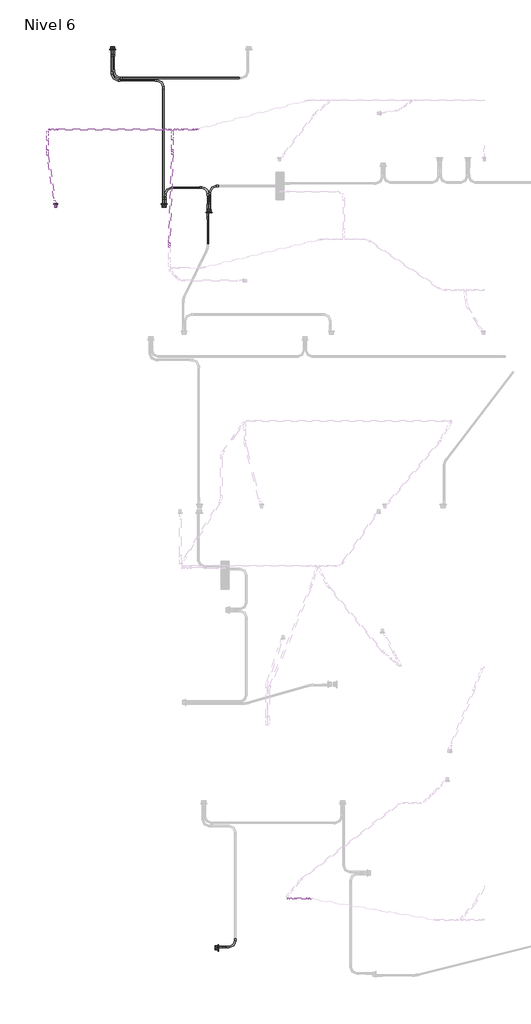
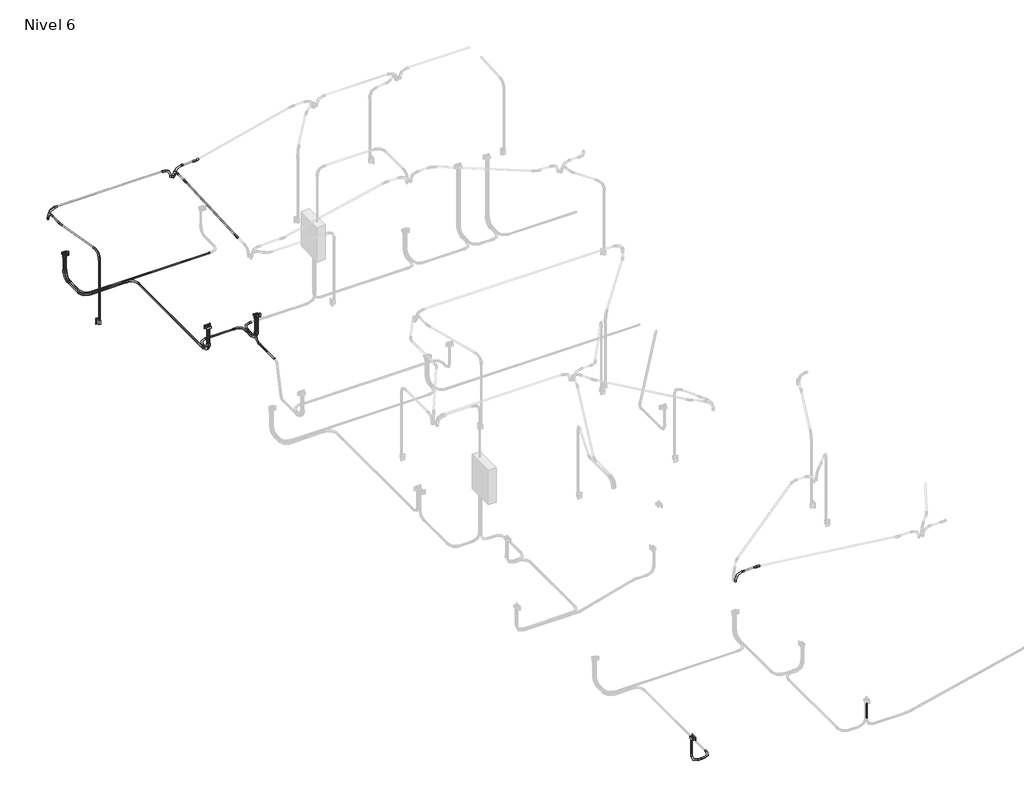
# One storey, part 2 of 9: 28 cable carrier fittings, 27 cable carrier segments, 4 proxies, 1 switching device.
"""IFC4 building model written with IfcOpenShell, lengths in millimetres."""

from ifc_helpers import new_model, si_unit, point, frame, frame_2d, origin, place, context, project, spatial, circle_curve, trimmed, segment, composite_curve, outline, extrude, transform, mapped, element, save
from components import gfci_180f1b41, m_codo_de_tubo_extremo_liso_pvc_9da73e12, m_codo_de_tubo_extremo_liso_pvc_17dd3af1, m_codo_de_tubo_extremo_liso_pvc_22de3964, m_codo_de_tubo_extremo_liso_pvc_102f0f41, m_codo_de_tubo_extremo_liso_pvc_e41270cf, m_codo_de_tubo_extremo_liso_pvc_7cb120de, m_codo_de_tubo_extremo_liso_pvc_0d52a11c, m_codo_de_tubo_extremo_liso_pvc_f661f515, switching_device_22fed34b

model = new_model("IFC4")

# Units and contexts
model_context = context("Model", 3, world=origin())
ifc_project = project(units=[si_unit("LENGTHUNIT", "METRE", prefix="MILLI")], contexts=[model_context])

# Site, building, storey
site = spatial("IfcSite", under=ifc_project)
building = spatial("IfcBuilding", under=site)
storey = spatial("IfcBuildingStorey", under=building, Name="Nivel 6", Elevation=13400.0)

# Proxies
placement = place(None, origin())
gfci_shape = gfci_180f1b41(model_context)
element("IfcBuildingElementProxy", 1, Name="Tomacorriente doble 220V : GFCI", ObjectType="Tomacorriente doble 220V : GFCI", at=placement, inside=storey, context=model_context, shape_type="MappedRepresentation", body=[
    mapped(gfci_shape, transform((-1794.6032307, 17515.0, 13800.0), x_axis=(0.0, 0.0, 1.0), y_axis=(-1.0, 0.0, 0.0), z_axis=(0.0, -1.0, 0.0))),
])
element("IfcBuildingElementProxy", 2, Name="Tomacorriente doble 220V : GFCI", ObjectType="Tomacorriente doble 220V : GFCI", at=placement, inside=storey, context=model_context, shape_type="MappedRepresentation", body=[
    mapped(gfci_shape, transform((-853.3169802, 14690.0, 13800.0), x_axis=(0.0, 0.0, 1.0), y_axis=(1.0, 0.0, 0.0), z_axis=(0.0, 1.0, 0.0))),
])
element("IfcBuildingElementProxy", 3, Name="Tomacorriente doble 220V : GFCI", ObjectType="Tomacorriente doble 220V : GFCI", at=placement, inside=storey, context=model_context, shape_type="MappedRepresentation", body=[
    mapped(gfci_shape, transform((-33.9717684, 14540.0, 13800.0), x_axis=(0.0, 0.0, 1.0), y_axis=(-1.0, 0.0, 0.0), z_axis=(0.0, -1.0, 0.0))),
])
element("IfcBuildingElementProxy", 4, Name="Tomacorriente doble 220V : GFCI", ObjectType="Tomacorriente doble 220V : GFCI", at=placement, inside=storey, context=model_context, shape_type="MappedRepresentation", body=[
    mapped(gfci_shape, transform((135.0, 1099.2397327, 13800.0), x_axis=(0.0, 0.0, 1.0), y_axis=(0.0, -1.0, 0.0), z_axis=(1.0, 0.0, 0.0))),
])

# Cable carrier fittings
m_codo_de_tubo_extremo_liso_pvc_shape = m_codo_de_tubo_extremo_liso_pvc_9da73e12(model_context)
element("IfcCableCarrierFitting", 5, ObjectType="M_Codo de tubo - Extremo liso - PVC : CODO POTENCIA", at=placement, inside=storey, context=model_context, shape_type="MappedRepresentation", body=[
    mapped(m_codo_de_tubo_extremo_liso_pvc_shape, transform((-1776.5714109, 17544.6371118, 13330.0), x_axis=(0.0, 0.0, -1.0), y_axis=(0.0, -1.0, 0.0), z_axis=(-1.0, 0.0, 0.0))),
])
element("IfcCableCarrierFitting", 6, ObjectType="M_Codo de tubo - Extremo liso - PVC : CODO POTENCIA", at=placement, inside=storey, context=model_context, shape_type="MappedRepresentation", body=[
    mapped(m_codo_de_tubo_extremo_liso_pvc_shape, transform((-52.0035882, 14569.6371118, 13330.0), x_axis=(0.0, 0.0, -1.0), y_axis=(0.0, 1.0, 0.0), z_axis=(1.0, 0.0, 0.0))),
])
element("IfcCableCarrierFitting", 7, ObjectType="M_Codo de tubo - Extremo liso - PVC : CODO POTENCIA", at=placement, inside=storey, context=model_context, shape_type="MappedRepresentation", body=[
    mapped(m_codo_de_tubo_extremo_liso_pvc_shape, transform((-52.7017393, 14567.6735337, 13330.0), x_axis=(0.0, 0.0, -1.0), y_axis=(0.0, -1.0, 0.0), z_axis=(-1.0, 0.0, 0.0))),
])
element("IfcCableCarrierFitting", 8, ObjectType="M_Codo de tubo - Extremo liso - PVC : CODO POTENCIA", at=placement, inside=storey, context=model_context, shape_type="MappedRepresentation", body=[
    mapped(m_codo_de_tubo_extremo_liso_pvc_shape, transform((-15.9399486, 15020.5396141, 13330.0), x_axis=(-1.0, 0.0, 0.0), y_axis=(0.0, -1.0, 0.0), z_axis=(0.0, 0.0, 1.0))),
])
element("IfcCableCarrierFitting", 9, ObjectType="M_Codo de tubo - Extremo liso - PVC : CODO POTENCIA", at=placement, inside=storey, context=model_context, shape_type="MappedRepresentation", body=[
    mapped(m_codo_de_tubo_extremo_liso_pvc_shape, transform((-15.9399486, 14569.6371118, 13330.0), x_axis=(0.0, 0.0, -1.0), y_axis=(0.0, 1.0, 0.0), z_axis=(1.0, 0.0, 0.0))),
])
element("IfcCableCarrierFitting", 10, ObjectType="M_Codo de tubo - Extremo liso - PVC : CODO POTENCIA", at=placement, inside=storey, context=model_context, shape_type="MappedRepresentation", body=[
    mapped(m_codo_de_tubo_extremo_liso_pvc_shape, transform((-835.2851604, 14660.3628882, 13330.0), x_axis=(0.0, 0.0, -1.0), y_axis=(0.0, 1.0, 0.0), z_axis=(1.0, 0.0, 0.0))),
])
element("IfcCableCarrierFitting", 11, ObjectType="M_Codo de tubo - Extremo liso - PVC : CODO POTENCIA", at=placement, inside=storey, context=model_context, shape_type="MappedRepresentation", body=[
    mapped(m_codo_de_tubo_extremo_liso_pvc_shape, transform((-1812.6350506, 17544.6371118, 13330.0), x_axis=(0.0, 0.0, -1.0), y_axis=(0.0, -1.0, 0.0), z_axis=(-1.0, 0.0, 0.0))),
])
element("IfcCableCarrierFitting", 12, ObjectType="M_Codo de tubo - Extremo liso - PVC : CODO POTENCIA", at=placement, inside=storey, context=model_context, shape_type="MappedRepresentation", body=[
    mapped(m_codo_de_tubo_extremo_liso_pvc_shape, transform((-1812.6350506, 16952.0348272, 13330.0), x_axis=(0.0, -1.0, 0.0), y_axis=(1.0, 0.0, 0.0), z_axis=(0.0, 0.0, 1.0))),
])
element("IfcCableCarrierFitting", 13, ObjectType="M_Codo de tubo - Extremo liso - PVC : CODO POTENCIA", at=placement, inside=storey, context=model_context, shape_type="MappedRepresentation", body=[
    mapped(m_codo_de_tubo_extremo_liso_pvc_shape, transform((-871.3488, 16952.0348272, 13330.0), x_axis=(0.0, 1.0, 0.0), y_axis=(-1.0, 0.0, 0.0), z_axis=(0.0, 0.0, 1.0))),
])
element("IfcCableCarrierFitting", 14, ObjectType="M_Codo de tubo - Extremo liso - PVC : CODO POTENCIA", at=placement, inside=storey, context=model_context, shape_type="MappedRepresentation", body=[
    mapped(m_codo_de_tubo_extremo_liso_pvc_shape, transform((-871.3488, 14660.3628882, 13330.0), x_axis=(0.0, 0.0, -1.0), y_axis=(0.0, 1.0, 0.0), z_axis=(1.0, 0.0, 0.0))),
])
element("IfcCableCarrierFitting", 15, ObjectType="M_Codo de tubo - Extremo liso - PVC : CODO POTENCIA", at=placement, inside=storey, context=model_context, shape_type="MappedRepresentation", body=[
    mapped(m_codo_de_tubo_extremo_liso_pvc_shape, transform((-1776.5714109, 16994.6371118, 13330.0), x_axis=(0.0, -1.0, 0.0), y_axis=(1.0, 0.0, 0.0), z_axis=(0.0, 0.0, 1.0))),
])
element("IfcCableCarrierFitting", 16, ObjectType="M_Codo de tubo - Extremo liso - PVC : CODO POTENCIA", at=placement, inside=storey, context=model_context, shape_type="MappedRepresentation", body=[
    mapped(m_codo_de_tubo_extremo_liso_pvc_shape, transform((105.3628882, 1117.2715525, 13330.0), x_axis=(0.0, 0.0, -1.0), y_axis=(1.0, 0.0, 0.0), z_axis=(0.0, -1.0, 0.0))),
])
element("IfcCableCarrierFitting", 17, ObjectType="M_Codo de tubo - Extremo liso - PVC : CODO POTENCIA", at=placement, inside=storey, context=model_context, shape_type="MappedRepresentation", body=[
    mapped(m_codo_de_tubo_extremo_liso_pvc_shape, transform((445.3628882, 1117.2715525, 13330.0), x_axis=(1.0, 0.0, 0.0), y_axis=(0.0, 1.0, 0.0), z_axis=(0.0, 0.0, 1.0))),
])
m_codo_de_tubo_extremo_liso_pvc_2_shape = m_codo_de_tubo_extremo_liso_pvc_17dd3af1(model_context)
element("IfcCableCarrierFitting", 18, ObjectType="M_Codo de tubo - Extremo liso - PVC : CODO POTENCIA", at=placement, inside=storey, context=model_context, shape_type="MappedRepresentation", body=[
    mapped(m_codo_de_tubo_extremo_liso_pvc_2_shape, transform((-52.0035882, 14992.0695832, 13330.0), x_axis=(0.0, 1.0, 0.0), y_axis=(-1.0, 0.0, 0.0), z_axis=(0.0, 0.0, 1.0))),
])
m_codo_de_tubo_extremo_liso_pvc_3_shape = m_codo_de_tubo_extremo_liso_pvc_22de3964(model_context)
element("IfcCableCarrierFitting", 19, ObjectType="M_Codo de tubo - Extremo liso - PVC : CODO POTENCIA", at=placement, inside=storey, context=model_context, shape_type="MappedRepresentation", body=[
    mapped(m_codo_de_tubo_extremo_liso_pvc_3_shape, transform((-835.2851604, 14988.4801624, 13330.0), x_axis=(-0.9999895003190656, -0.004582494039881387, 0.0), y_axis=(0.004582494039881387, -0.9999895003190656, 0.0), z_axis=(0.0, 0.0, 1.0))),
])
element("IfcCableCarrierFitting", 20, ObjectType="M_Codo de tubo - Extremo liso - PVC : CODO ILUMINACION", at=placement, inside=storey, context=model_context, shape_type="MappedRepresentation", body=[
    mapped(m_codo_de_tubo_extremo_liso_pvc_shape, transform((-661.5653638, 16052.1888938, 15950.0), x_axis=(-1.0, 0.0, 0.0), y_axis=(0.0, 0.0, -1.0), z_axis=(0.0, -1.0, 0.0))),
])
element("IfcCableCarrierFitting", 21, ObjectType="M_Codo de tubo - Extremo liso - PVC : CODO ILUMINACION", at=placement, inside=storey, context=model_context, shape_type="MappedRepresentation", body=[
    mapped(m_codo_de_tubo_extremo_liso_pvc_shape, transform((-2951.1219844, 16052.1888938, 15950.0), x_axis=(-1.0, 0.0, 0.0), y_axis=(0.0, 0.0, -1.0), z_axis=(0.0, -1.0, 0.0))),
])
element("IfcCableCarrierFitting", 22, ObjectType="M_Codo de tubo - Extremo liso - PVC : CODO ILUMINACION", at=placement, inside=storey, context=model_context, shape_type="MappedRepresentation", body=[
    mapped(m_codo_de_tubo_extremo_liso_pvc_shape, transform((1413.7987662, 1999.8975507, 15950.0), x_axis=(-1.0, 0.0, 0.0), y_axis=(0.0, 0.0, -1.0), z_axis=(0.0, -1.0, 0.0))),
])
element("IfcCableCarrierFitting", 23, ObjectType="M_Codo de tubo - Extremo liso - PVC : CODO ILUMINACION", at=placement, inside=storey, context=model_context, shape_type="MappedRepresentation", body=[
    mapped(m_codo_de_tubo_extremo_liso_pvc_shape, transform((-2839.7372295, 14646.8611243, 15950.0), x_axis=(0.0, 0.0, 1.0), y_axis=(-0.15963019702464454, 0.987176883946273, 0.0), z_axis=(-0.987176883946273, -0.15963019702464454, 0.0))),
])
element("IfcCableCarrierFitting", 24, ObjectType="M_Codo de tubo - Extremo liso - PVC : CODO ILUMINACION", at=placement, inside=storey, context=model_context, shape_type="MappedRepresentation", body=[
    mapped(m_codo_de_tubo_extremo_liso_pvc_shape, transform((-703.6011392, 16021.9686748, 15950.0), x_axis=(0.0, 1.0, 0.0), y_axis=(0.0, 0.0, -1.0), z_axis=(-1.0, 0.0, 0.0))),
])
m_codo_de_tubo_extremo_liso_pvc_4_shape = m_codo_de_tubo_extremo_liso_pvc_102f0f41(model_context)
element("IfcCableCarrierFitting", 25, ObjectType="M_Codo de tubo - Extremo liso - PVC : CODO ILUMINACION", at=placement, inside=storey, context=model_context, shape_type="MappedRepresentation", body=[
    mapped(m_codo_de_tubo_extremo_liso_pvc_4_shape, transform((-733.8213583, 16052.1888938, 15950.0), x_axis=(1.0, 0.0, 0.0), y_axis=(0.0, 0.0, 1.0), z_axis=(0.0, -1.0, 0.0))),
])
element("IfcCableCarrierFitting", 26, ObjectType="M_Codo de tubo - Extremo liso - PVC : CODO ILUMINACION", at=placement, inside=storey, context=model_context, shape_type="MappedRepresentation", body=[
    mapped(m_codo_de_tubo_extremo_liso_pvc_4_shape, transform((-2986.7540127, 16011.2529502, 15950.0), x_axis=(0.016294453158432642, 0.9998672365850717, 0.0), y_axis=(0.0, 0.0, 1.0), z_axis=(0.9998672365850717, -0.016294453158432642, 0.0))),
])
element("IfcCableCarrierFitting", 27, ObjectType="M_Codo de tubo - Extremo liso - PVC : CODO ILUMINACION", at=placement, inside=storey, context=model_context, shape_type="MappedRepresentation", body=[
    mapped(m_codo_de_tubo_extremo_liso_pvc_4_shape, transform((-2986.7540127, 16011.2529502, 15950.0), x_axis=(0.016294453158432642, 0.9998672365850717, 0.0), y_axis=(0.0, 0.0, 1.0), z_axis=(0.9998672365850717, -0.016294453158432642, 0.0))),
])
m_codo_de_tubo_extremo_liso_pvc_5_shape = m_codo_de_tubo_extremo_liso_pvc_e41270cf(model_context)
element("IfcCableCarrierFitting", 28, ObjectType="M_Codo de tubo - Extremo liso - PVC : CODO ILUMINACION", at=placement, inside=storey, context=model_context, shape_type="MappedRepresentation", body=[
    mapped(m_codo_de_tubo_extremo_liso_pvc_5_shape, transform((-275.4472468, 16052.1888938, 15950.0), x_axis=(1.0, 0.0, 0.0), y_axis=(0.0, 1.0, 0.0), z_axis=(0.0, 0.0, 1.0))),
])
m_codo_de_tubo_extremo_liso_pvc_6_shape = m_codo_de_tubo_extremo_liso_pvc_7cb120de(model_context)
element("IfcCableCarrierFitting", 29, ObjectType="M_Codo de tubo - Extremo liso - PVC : CODO ILUMINACION", at=placement, inside=storey, context=model_context, shape_type="MappedRepresentation", body=[
    mapped(m_codo_de_tubo_extremo_liso_pvc_6_shape, transform((-2992.9621994, 15630.3035331, 15950.0), x_axis=(-0.016294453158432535, -0.9998672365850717, 0.0), y_axis=(0.9998672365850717, -0.016294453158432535, 0.0), z_axis=(0.0, 0.0, 1.0))),
])
m_codo_de_tubo_extremo_liso_pvc_7_shape = m_codo_de_tubo_extremo_liso_pvc_0d52a11c(model_context)
element("IfcCableCarrierFitting", 30, ObjectType="M_Codo de tubo - Extremo liso - PVC : CODO ILUMINACION", at=placement, inside=storey, context=model_context, shape_type="MappedRepresentation", body=[
    mapped(m_codo_de_tubo_extremo_liso_pvc_7_shape, transform((-703.6011392, 15640.9686748, 15950.0), x_axis=(0.03334485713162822, 0.9994439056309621, 0.0), y_axis=(-0.9994439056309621, 0.03334485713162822, 0.0), z_axis=(0.0, 0.0, 1.0))),
])
element("IfcCableCarrierFitting", 31, ObjectType="M_Codo de tubo - Extremo liso - PVC : CODO ILUMINACION", at=placement, inside=storey, context=model_context, shape_type="MappedRepresentation", body=[
    mapped(m_codo_de_tubo_extremo_liso_pvc_7_shape, transform((-760.3529908, 13939.9479758, 15950.0), x_axis=(-0.03334485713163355, -0.9994439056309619, 0.0), y_axis=(0.9994439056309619, -0.03334485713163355, 0.0), z_axis=(0.0, 0.0, 1.0))),
])
m_codo_de_tubo_extremo_liso_pvc_8_shape = m_codo_de_tubo_extremo_liso_pvc_f661f515(model_context)
element("IfcCableCarrierFitting", 32, ObjectType="M_Codo de tubo - Extremo liso - PVC : CODO ILUMINACION", at=placement, inside=storey, context=model_context, shape_type="MappedRepresentation", body=[
    mapped(m_codo_de_tubo_extremo_liso_pvc_8_shape, transform((1798.9934656, 1999.8975507, 15950.0), x_axis=(-0.9860609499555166, 0.16638450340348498, 0.0), y_axis=(-0.16638450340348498, -0.9860609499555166, 0.0), z_axis=(0.0, 0.0, 1.0))),
])

# Cable carrier segments
element("IfcCableCarrierSegment", 33, ObjectType="PVC-SEL, POTENCIA", at=placement, inside=storey, context=model_context, shape_type="SweptSolid", body=[
    extrude(outline(composite_curve([segment(trimmed(circle_curve(frame_2d((13330.0, -1776.5714109)), 11.71), [point((13330.0, -1788.2814109))], [point((13318.29, -1776.5714109))], False, "CARTESIAN"), True, "CONTINUOUS"), segment(trimmed(circle_curve(frame_2d((13330.0, -1776.5714109)), 11.71), [point((13318.29, -1776.5714109))], [point((13330.0, -1764.8614109))], False, "CARTESIAN"), True, "CONTINUOUS"), segment(trimmed(circle_curve(frame_2d((13330.0, -1776.5714109)), 11.71), [point((13330.0, -1764.8614109))], [point((13341.71, -1776.5714109))], False, "CARTESIAN"), True, "CONTINUOUS"), segment(trimmed(circle_curve(frame_2d((13330.0, -1776.5714109)), 11.71), [point((13341.71, -1776.5714109))], [point((13330.0, -1788.2814109))], False, "CARTESIAN"), True, "CONTINUOUS")], self_intersect=False)), frame((0.0, 17147.0371118, 0.0), z_axis=(0.0, 1.0, 0.0), x_axis=(0.0, 0.0, 1.0)), (0.0, 0.0, 1.0), 245.2),
])
element("IfcCableCarrierSegment", 34, ObjectType="PVC-SEL, POTENCIA", at=placement, inside=storey, context=model_context, shape_type="SweptSolid", body=[
    extrude(outline(composite_curve([segment(trimmed(circle_curve(frame_2d((-1776.5714109, 17544.6371118)), 11.71), [point((-1764.8614109, 17544.6371118))], [point((-1776.5714109, 17532.9271118))], False, "CARTESIAN"), True, "CONTINUOUS"), segment(trimmed(circle_curve(frame_2d((-1776.5714109, 17544.6371118)), 11.71), [point((-1776.5714109, 17532.9271118))], [point((-1788.2814109, 17544.6371118))], False, "CARTESIAN"), True, "CONTINUOUS"), segment(trimmed(circle_curve(frame_2d((-1776.5714109, 17544.6371118)), 11.71), [point((-1788.2814109, 17544.6371118))], [point((-1776.5714109, 17556.3471118))], False, "CARTESIAN"), True, "CONTINUOUS"), segment(trimmed(circle_curve(frame_2d((-1776.5714109, 17544.6371118)), 11.71), [point((-1776.5714109, 17556.3471118))], [point((-1764.8614109, 17544.6371118))], False, "CARTESIAN"), True, "CONTINUOUS")], self_intersect=False)), frame((0.0, 0.0, 13482.4), z_axis=(0.0, 0.0, 1.0), x_axis=(1.0, 0.0, 0.0)), (0.0, 0.0, 1.0), 297.3020537),
])
element("IfcCableCarrierSegment", 35, ObjectType="PVC-SEL, POTENCIA", at=placement, inside=storey, context=model_context, shape_type="SweptSolid", body=[
    extrude(outline(composite_curve([segment(trimmed(circle_curve(frame_2d((13330.0, -15.9399486)), 11.71), [point((13330.0, -27.6499486))], [point((13318.29, -15.9399486))], False, "CARTESIAN"), True, "CONTINUOUS"), segment(trimmed(circle_curve(frame_2d((13330.0, -15.9399486)), 11.71), [point((13318.29, -15.9399486))], [point((13330.0, -4.2299486))], False, "CARTESIAN"), True, "CONTINUOUS"), segment(trimmed(circle_curve(frame_2d((13330.0, -15.9399486)), 11.71), [point((13330.0, -4.2299486))], [point((13341.71, -15.9399486))], False, "CARTESIAN"), True, "CONTINUOUS"), segment(trimmed(circle_curve(frame_2d((13330.0, -15.9399486)), 11.71), [point((13341.71, -15.9399486))], [point((13330.0, -27.6499486))], False, "CARTESIAN"), True, "CONTINUOUS")], self_intersect=False)), frame((0.0, 14722.0371118, 0.0), z_axis=(0.0, 1.0, 0.0), x_axis=(0.0, 0.0, 1.0)), (0.0, 0.0, 1.0), 146.1025023),
])
element("IfcCableCarrierSegment", 36, ObjectType="PVC-SEL, POTENCIA", at=placement, inside=storey, context=model_context, shape_type="SweptSolid", body=[
    extrude(outline(composite_curve([segment(trimmed(circle_curve(frame_2d((-15.9399486, 14569.6371118)), 11.71), [point((-4.2299486, 14569.6371118))], [point((-15.9399486, 14557.9271118))], False, "CARTESIAN"), True, "CONTINUOUS"), segment(trimmed(circle_curve(frame_2d((-15.9399486, 14569.6371118)), 11.71), [point((-15.9399486, 14557.9271118))], [point((-27.6499486, 14569.6371118))], False, "CARTESIAN"), True, "CONTINUOUS"), segment(trimmed(circle_curve(frame_2d((-15.9399486, 14569.6371118)), 11.71), [point((-27.6499486, 14569.6371118))], [point((-15.9399486, 14581.3471118))], False, "CARTESIAN"), True, "CONTINUOUS"), segment(trimmed(circle_curve(frame_2d((-15.9399486, 14569.6371118)), 11.71), [point((-15.9399486, 14581.3471118))], [point((-4.2299486, 14569.6371118))], False, "CARTESIAN"), True, "CONTINUOUS")], self_intersect=False)), frame((0.0, 0.0, 13482.4), z_axis=(0.0, 0.0, 1.0), x_axis=(1.0, 0.0, 0.0)), (0.0, 0.0, 1.0), 297.3020537),
])
element("IfcCableCarrierSegment", 37, ObjectType="PVC-SEL, POTENCIA", at=placement, inside=storey, context=model_context, shape_type="SweptSolid", body=[
    extrude(outline(composite_curve([segment(trimmed(circle_curve(frame_2d((13330.0, -52.0035882)), 11.71), [point((13330.0, -40.2935882))], [point((13341.71, -52.0035882))], False, "CARTESIAN"), True, "CONTINUOUS"), segment(trimmed(circle_curve(frame_2d((13330.0, -52.0035882)), 11.71), [point((13341.71, -52.0035882))], [point((13330.0, -63.7135882))], False, "CARTESIAN"), True, "CONTINUOUS"), segment(trimmed(circle_curve(frame_2d((13330.0, -52.0035882)), 11.71), [point((13330.0, -63.7135882))], [point((13318.29, -52.0035882))], False, "CARTESIAN"), True, "CONTINUOUS"), segment(trimmed(circle_curve(frame_2d((13330.0, -52.0035882)), 11.71), [point((13318.29, -52.0035882))], [point((13330.0, -40.2935882))], False, "CARTESIAN"), True, "CONTINUOUS")], self_intersect=False)), frame((0.0, 14722.0371118, 0.0), z_axis=(0.0, 1.0, 0.0), x_axis=(0.0, 0.0, 1.0)), (0.0, 0.0, 1.0), 117.1074867),
])
element("IfcCableCarrierSegment", 38, ObjectType="PVC-SEL, POTENCIA", at=placement, inside=storey, context=model_context, shape_type="SweptSolid", body=[
    extrude(outline(composite_curve([segment(trimmed(circle_curve(frame_2d((-52.0035882, 14569.6371118)), 11.71), [point((-40.2935882, 14569.6371118))], [point((-52.0035882, 14557.9271118))], False, "CARTESIAN"), True, "CONTINUOUS"), segment(trimmed(circle_curve(frame_2d((-52.0035882, 14569.6371118)), 11.71), [point((-52.0035882, 14557.9271118))], [point((-63.7135882, 14569.6371118))], False, "CARTESIAN"), True, "CONTINUOUS"), segment(trimmed(circle_curve(frame_2d((-52.0035882, 14569.6371118)), 11.71), [point((-63.7135882, 14569.6371118))], [point((-52.0035882, 14581.3471118))], False, "CARTESIAN"), True, "CONTINUOUS"), segment(trimmed(circle_curve(frame_2d((-52.0035882, 14569.6371118)), 11.71), [point((-52.0035882, 14581.3471118))], [point((-40.2935882, 14569.6371118))], False, "CARTESIAN"), True, "CONTINUOUS")], self_intersect=False)), frame((0.0, 0.0, 13482.4), z_axis=(0.0, 0.0, 1.0), x_axis=(1.0, 0.0, 0.0)), (0.0, 0.0, 1.0), 297.3020537),
])
element("IfcCableCarrierSegment", 39, ObjectType="PVC-SEL, POTENCIA", at=placement, inside=storey, context=model_context, shape_type="SweptSolid", body=[
    extrude(outline(composite_curve([segment(trimmed(circle_curve(frame_2d((13330.0, -835.2851604)), 11.71), [point((13330.0, -846.9951604))], [point((13318.29, -835.2851604))], False, "CARTESIAN"), True, "CONTINUOUS"), segment(trimmed(circle_curve(frame_2d((13330.0, -835.2851604)), 11.71), [point((13318.29, -835.2851604))], [point((13330.0, -823.5751604))], False, "CARTESIAN"), True, "CONTINUOUS"), segment(trimmed(circle_curve(frame_2d((13330.0, -835.2851604)), 11.71), [point((13330.0, -823.5751604))], [point((13341.71, -835.2851604))], False, "CARTESIAN"), True, "CONTINUOUS"), segment(trimmed(circle_curve(frame_2d((13330.0, -835.2851604)), 11.71), [point((13341.71, -835.2851604))], [point((13330.0, -846.9951604))], False, "CARTESIAN"), True, "CONTINUOUS")], self_intersect=False)), frame((0.0, 14812.7628882, 0.0), z_axis=(0.0, 1.0, 0.0), x_axis=(0.0, 0.0, 1.0)), (0.0, 0.0, 1.0), 23.8398586),
])
element("IfcCableCarrierSegment", 40, ObjectType="PVC-SEL, POTENCIA", at=placement, inside=storey, context=model_context, shape_type="SweptSolid", body=[
    extrude(outline(composite_curve([segment(trimmed(circle_curve(frame_2d((-835.2851604, 14660.3628882)), 11.71), [point((-823.5751604, 14660.3628882))], [point((-835.2851604, 14648.6528882))], False, "CARTESIAN"), True, "CONTINUOUS"), segment(trimmed(circle_curve(frame_2d((-835.2851604, 14660.3628882)), 11.71), [point((-835.2851604, 14648.6528882))], [point((-846.9951604, 14660.3628882))], False, "CARTESIAN"), True, "CONTINUOUS"), segment(trimmed(circle_curve(frame_2d((-835.2851604, 14660.3628882)), 11.71), [point((-846.9951604, 14660.3628882))], [point((-835.2851604, 14672.0728882))], False, "CARTESIAN"), True, "CONTINUOUS"), segment(trimmed(circle_curve(frame_2d((-835.2851604, 14660.3628882)), 11.71), [point((-835.2851604, 14672.0728882))], [point((-823.5751604, 14660.3628882))], False, "CARTESIAN"), True, "CONTINUOUS")], self_intersect=False)), frame((0.0, 0.0, 13482.4), z_axis=(0.0, 0.0, 1.0), x_axis=(1.0, 0.0, 0.0)), (0.0, 0.0, 1.0), 297.3020537),
])
element("IfcCableCarrierSegment", 41, ObjectType="PVC-SEL, POTENCIA", at=placement, inside=storey, context=model_context, shape_type="SweptSolid", body=[
    extrude(outline(composite_curve([segment(trimmed(circle_curve(frame_2d((13330.0, -871.3488)), 11.71), [point((13330.0, -883.0588))], [point((13318.29, -871.3488))], False, "CARTESIAN"), True, "CONTINUOUS"), segment(trimmed(circle_curve(frame_2d((13330.0, -871.3488)), 11.71), [point((13318.29, -871.3488))], [point((13330.0, -859.6388))], False, "CARTESIAN"), True, "CONTINUOUS"), segment(trimmed(circle_curve(frame_2d((13330.0, -871.3488)), 11.71), [point((13330.0, -859.6388))], [point((13341.71, -871.3488))], False, "CARTESIAN"), True, "CONTINUOUS"), segment(trimmed(circle_curve(frame_2d((13330.0, -871.3488)), 11.71), [point((13341.71, -871.3488))], [point((13330.0, -883.0588))], False, "CARTESIAN"), True, "CONTINUOUS")], self_intersect=False)), frame((0.0, 14812.7628882, 0.0), z_axis=(0.0, 1.0, 0.0), x_axis=(0.0, 0.0, 1.0)), (0.0, 0.0, 1.0), 1986.871939),
])
element("IfcCableCarrierSegment", 42, ObjectType="PVC-SEL, POTENCIA", at=placement, inside=storey, context=model_context, shape_type="SweptSolid", body=[
    extrude(outline(composite_curve([segment(trimmed(circle_curve(frame_2d((-871.3488, 14660.3628882)), 11.71), [point((-859.6388, 14660.3628882))], [point((-871.3488, 14648.6528882))], False, "CARTESIAN"), True, "CONTINUOUS"), segment(trimmed(circle_curve(frame_2d((-871.3488, 14660.3628882)), 11.71), [point((-871.3488, 14648.6528882))], [point((-883.0588, 14660.3628882))], False, "CARTESIAN"), True, "CONTINUOUS"), segment(trimmed(circle_curve(frame_2d((-871.3488, 14660.3628882)), 11.71), [point((-883.0588, 14660.3628882))], [point((-871.3488, 14672.0728882))], False, "CARTESIAN"), True, "CONTINUOUS"), segment(trimmed(circle_curve(frame_2d((-871.3488, 14660.3628882)), 11.71), [point((-871.3488, 14672.0728882))], [point((-859.6388, 14660.3628882))], False, "CARTESIAN"), True, "CONTINUOUS")], self_intersect=False)), frame((0.0, 0.0, 13482.4), z_axis=(0.0, 0.0, 1.0), x_axis=(1.0, 0.0, 0.0)), (0.0, 0.0, 1.0), 297.3020537),
])
element("IfcCableCarrierSegment", 43, ObjectType="PVC-SEL, POTENCIA", at=placement, inside=storey, context=model_context, shape_type="SweptSolid", body=[
    extrude(outline(composite_curve([segment(trimmed(circle_curve(frame_2d((13330.0, -52.7017393)), 11.71), [point((13330.0, -64.4117393))], [point((13318.29, -52.7017393))], False, "CARTESIAN"), True, "CONTINUOUS"), segment(trimmed(circle_curve(frame_2d((13330.0, -52.7017393)), 11.71), [point((13318.29, -52.7017393))], [point((13330.0, -40.9917393))], False, "CARTESIAN"), True, "CONTINUOUS"), segment(trimmed(circle_curve(frame_2d((13330.0, -52.7017393)), 11.71), [point((13330.0, -40.9917393))], [point((13341.71, -52.7017393))], False, "CARTESIAN"), True, "CONTINUOUS"), segment(trimmed(circle_curve(frame_2d((13330.0, -52.7017393)), 11.71), [point((13341.71, -52.7017393))], [point((13330.0, -64.4117393))], False, "CARTESIAN"), True, "CONTINUOUS")], self_intersect=False)), frame((0.0, 13959.5803753, 0.0), z_axis=(0.0, 1.0, 0.0), x_axis=(0.0, 0.0, 1.0)), (0.0, 0.0, 1.0), 455.6931583),
])
element("IfcCableCarrierSegment", 44, ObjectType="PVC-SEL, POTENCIA", at=placement, inside=storey, context=model_context, shape_type="SweptSolid", body=[
    extrude(outline(composite_curve([segment(trimmed(circle_curve(frame_2d((0.0, -11.71)), 11.71), [point((-11.7100001, -11.71))], [point((0.0, 0.0))], False, "CARTESIAN"), True, "CONTINUOUS"), segment(trimmed(circle_curve(frame_2d((0.0, -11.71)), 11.71), [point((0.0, 0.0))], [point((11.71, -11.71))], False, "CARTESIAN"), True, "CONTINUOUS"), segment(trimmed(circle_curve(frame_2d((0.0, -11.71)), 11.71), [point((11.71, -11.71))], [point((0.0, -23.42))], False, "CARTESIAN"), True, "CONTINUOUS"), segment(trimmed(circle_curve(frame_2d((0.0, -11.71)), 11.71), [point((0.0, -23.42))], [point((-11.7100001, -11.71))], False, "CARTESIAN"), True, "CONTINUOUS")], self_intersect=False)), frame((-683.4093395, 14989.1761397, 13318.29), z_axis=(0.9999895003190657, 0.004582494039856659, 0.0), x_axis=(0.004582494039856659, -0.9999895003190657, 3.9506176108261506e-12)), (0.0, 0.0, 1.0), 478.4873962),
])
element("IfcCableCarrierSegment", 45, ObjectType="PVC-SEL, POTENCIA", at=placement, inside=storey, context=model_context, shape_type="SweptSolid", body=[
    extrude(outline(composite_curve([segment(trimmed(circle_curve(frame_2d((-1812.6350506, 17544.6371118)), 11.71), [point((-1800.9250506, 17544.6371118))], [point((-1812.6350506, 17532.9271118))], False, "CARTESIAN"), True, "CONTINUOUS"), segment(trimmed(circle_curve(frame_2d((-1812.6350506, 17544.6371118)), 11.71), [point((-1812.6350506, 17532.9271118))], [point((-1824.3450506, 17544.6371118))], False, "CARTESIAN"), True, "CONTINUOUS"), segment(trimmed(circle_curve(frame_2d((-1812.6350506, 17544.6371118)), 11.71), [point((-1824.3450506, 17544.6371118))], [point((-1812.6350506, 17556.3471118))], False, "CARTESIAN"), True, "CONTINUOUS"), segment(trimmed(circle_curve(frame_2d((-1812.6350506, 17544.6371118)), 11.71), [point((-1812.6350506, 17556.3471118))], [point((-1800.9250506, 17544.6371118))], False, "CARTESIAN"), True, "CONTINUOUS")], self_intersect=False)), frame((0.0, 0.0, 13482.4), z_axis=(0.0, 0.0, 1.0), x_axis=(1.0, 0.0, 0.0)), (0.0, 0.0, 1.0), 297.3020537),
])
element("IfcCableCarrierSegment", 46, ObjectType="PVC-SEL, POTENCIA", at=placement, inside=storey, context=model_context, shape_type="SweptSolid", body=[
    extrude(outline(composite_curve([segment(trimmed(circle_curve(frame_2d((16994.6371118, 13330.0)), 11.71), [point((16982.9271118, 13330.0))], [point((16994.6371118, 13341.71))], False, "CARTESIAN"), True, "CONTINUOUS"), segment(trimmed(circle_curve(frame_2d((16994.6371118, 13330.0)), 11.71), [point((16994.6371118, 13341.71))], [point((17006.3471118, 13330.0))], False, "CARTESIAN"), True, "CONTINUOUS"), segment(trimmed(circle_curve(frame_2d((16994.6371118, 13330.0)), 11.71), [point((17006.3471118, 13330.0))], [point((16994.6371118, 13318.29))], False, "CARTESIAN"), True, "CONTINUOUS"), segment(trimmed(circle_curve(frame_2d((16994.6371118, 13330.0)), 11.71), [point((16994.6371118, 13318.29))], [point((16982.9271118, 13330.0))], False, "CARTESIAN"), True, "CONTINUOUS")], self_intersect=False)), frame((-1624.1714109, 0.0, 0.0), z_axis=(1.0, 0.0, 0.0), x_axis=(0.0, 1.0, 0.0)), (0.0, 0.0, 1.0), 2146.7061785),
])
element("IfcCableCarrierSegment", 47, ObjectType="PVC-SEL, POTENCIA", at=placement, inside=storey, context=model_context, shape_type="SweptSolid", body=[
    extrude(outline(composite_curve([segment(trimmed(circle_curve(frame_2d((13330.0, -1812.6350506)), 11.71), [point((13330.0, -1824.3450506))], [point((13318.29, -1812.6350506))], False, "CARTESIAN"), True, "CONTINUOUS"), segment(trimmed(circle_curve(frame_2d((13330.0, -1812.6350506)), 11.71), [point((13318.29, -1812.6350506))], [point((13330.0, -1800.9250506))], False, "CARTESIAN"), True, "CONTINUOUS"), segment(trimmed(circle_curve(frame_2d((13330.0, -1812.6350506)), 11.71), [point((13330.0, -1800.9250506))], [point((13341.71, -1812.6350506))], False, "CARTESIAN"), True, "CONTINUOUS"), segment(trimmed(circle_curve(frame_2d((13330.0, -1812.6350506)), 11.71), [point((13341.71, -1812.6350506))], [point((13330.0, -1824.3450506))], False, "CARTESIAN"), True, "CONTINUOUS")], self_intersect=False)), frame((0.0, 17104.4348272, 0.0), z_axis=(0.0, 1.0, 0.0), x_axis=(0.0, 0.0, 1.0)), (0.0, 0.0, 1.0), 287.8022846),
])
element("IfcCableCarrierSegment", 48, ObjectType="PVC-SEL, POTENCIA", at=placement, inside=storey, context=model_context, shape_type="SweptSolid", body=[
    extrude(outline(composite_curve([segment(trimmed(circle_curve(frame_2d((16952.0348272, 13330.0)), 11.71), [point((16940.3248272, 13330.0))], [point((16952.0348272, 13341.71))], False, "CARTESIAN"), True, "CONTINUOUS"), segment(trimmed(circle_curve(frame_2d((16952.0348272, 13330.0)), 11.71), [point((16952.0348272, 13341.71))], [point((16963.7448272, 13330.0))], False, "CARTESIAN"), True, "CONTINUOUS"), segment(trimmed(circle_curve(frame_2d((16952.0348272, 13330.0)), 11.71), [point((16963.7448272, 13330.0))], [point((16952.0348272, 13318.29))], False, "CARTESIAN"), True, "CONTINUOUS"), segment(trimmed(circle_curve(frame_2d((16952.0348272, 13330.0)), 11.71), [point((16952.0348272, 13318.29))], [point((16940.3248272, 13330.0))], False, "CARTESIAN"), True, "CONTINUOUS")], self_intersect=False)), frame((-1660.2350506, 0.0, 0.0), z_axis=(1.0, 0.0, 0.0), x_axis=(0.0, 1.0, 0.0)), (0.0, 0.0, 1.0), 636.4862505),
])
element("IfcCableCarrierSegment", 49, ObjectType="PVC-SEL, POTENCIA", at=placement, inside=storey, context=model_context, shape_type="SweptSolid", body=[
    extrude(outline(composite_curve([segment(trimmed(circle_curve(frame_2d((1117.2715525, 13330.0)), 11.71), [point((1105.5615525, 13330.0))], [point((1117.2715525, 13341.71))], False, "CARTESIAN"), True, "CONTINUOUS"), segment(trimmed(circle_curve(frame_2d((1117.2715525, 13330.0)), 11.71), [point((1117.2715525, 13341.71))], [point((1128.9815525, 13330.0))], False, "CARTESIAN"), True, "CONTINUOUS"), segment(trimmed(circle_curve(frame_2d((1117.2715525, 13330.0)), 11.71), [point((1128.9815525, 13330.0))], [point((1117.2715525, 13318.29))], False, "CARTESIAN"), True, "CONTINUOUS"), segment(trimmed(circle_curve(frame_2d((1117.2715525, 13330.0)), 11.71), [point((1117.2715525, 13318.29))], [point((1105.5615525, 13330.0))], False, "CARTESIAN"), True, "CONTINUOUS")], self_intersect=False)), frame((257.7628882, 0.0, 0.0), z_axis=(1.0, 0.0, 0.0), x_axis=(0.0, 1.0, 0.0)), (0.0, 0.0, 1.0), 35.2),
])
element("IfcCableCarrierSegment", 50, ObjectType="PVC-SEL, POTENCIA", at=placement, inside=storey, context=model_context, shape_type="SweptSolid", body=[
    extrude(outline(composite_curve([segment(trimmed(circle_curve(frame_2d((105.3628882, 1117.2715525)), 11.71), [point((117.0728882, 1117.2715525))], [point((105.3628882, 1105.5615525))], False, "CARTESIAN"), True, "CONTINUOUS"), segment(trimmed(circle_curve(frame_2d((105.3628882, 1117.2715525)), 11.71), [point((105.3628882, 1105.5615525))], [point((93.6528882, 1117.2715525))], False, "CARTESIAN"), True, "CONTINUOUS"), segment(trimmed(circle_curve(frame_2d((105.3628882, 1117.2715525)), 11.71), [point((93.6528882, 1117.2715525))], [point((105.3628882, 1128.9815525))], False, "CARTESIAN"), True, "CONTINUOUS"), segment(trimmed(circle_curve(frame_2d((105.3628882, 1117.2715525)), 11.71), [point((105.3628882, 1128.9815525))], [point((117.0728882, 1117.2715525))], False, "CARTESIAN"), True, "CONTINUOUS")], self_intersect=False)), frame((0.0, 0.0, 13482.4), z_axis=(0.0, 0.0, 1.0), x_axis=(1.0, 0.0, 0.0)), (0.0, 0.0, 1.0), 297.3020537),
])
element("IfcCableCarrierSegment", 51, ObjectType="PVC-SEL, POTENCIA", at=placement, inside=storey, context=model_context, shape_type="SweptSolid", body=[
    extrude(outline(composite_curve([segment(trimmed(circle_curve(frame_2d((2985.3628882, 598.0129453)), 11.71), [point((2997.0728882, 598.0129453))], [point((2985.3628882, 586.3029453))], False, "CARTESIAN"), True, "CONTINUOUS"), segment(trimmed(circle_curve(frame_2d((2985.3628882, 598.0129453)), 11.71), [point((2985.3628882, 586.3029453))], [point((2973.6528882, 598.0129453))], False, "CARTESIAN"), True, "CONTINUOUS"), segment(trimmed(circle_curve(frame_2d((2985.3628882, 598.0129453)), 11.71), [point((2973.6528882, 598.0129453))], [point((2985.3628882, 609.7229453))], False, "CARTESIAN"), True, "CONTINUOUS"), segment(trimmed(circle_curve(frame_2d((2985.3628882, 598.0129453)), 11.71), [point((2985.3628882, 609.7229453))], [point((2997.0728882, 598.0129453))], False, "CARTESIAN"), True, "CONTINUOUS")], self_intersect=False)), frame((0.0, 0.0, 13482.4), z_axis=(0.0, 0.0, 1.0), x_axis=(1.0, 0.0, 0.0)), (0.0, 0.0, 1.0), 297.3020537),
])
element("IfcCableCarrierSegment", 52, ObjectType="PVC-SEL ILUMINACION", at=placement, inside=storey, context=model_context, shape_type="SweptSolid", body=[
    extrude(outline(composite_curve([segment(trimmed(circle_curve(frame_2d((16052.1888938, 15950.0)), 11.71), [point((16040.4788938, 15950.0))], [point((16052.1888938, 15961.71))], False, "CARTESIAN"), True, "CONTINUOUS"), segment(trimmed(circle_curve(frame_2d((16052.1888938, 15950.0)), 11.71), [point((16052.1888938, 15961.71))], [point((16063.8988938, 15950.0))], False, "CARTESIAN"), True, "CONTINUOUS"), segment(trimmed(circle_curve(frame_2d((16052.1888938, 15950.0)), 11.71), [point((16063.8988938, 15950.0))], [point((16052.1888938, 15938.29))], False, "CARTESIAN"), True, "CONTINUOUS"), segment(trimmed(circle_curve(frame_2d((16052.1888938, 15950.0)), 11.71), [point((16052.1888938, 15938.29))], [point((16040.4788938, 15950.0))], False, "CARTESIAN"), True, "CONTINUOUS")], self_intersect=False)), frame((-509.1653638, 0.0, 0.0), z_axis=(1.0, 0.0, 0.0), x_axis=(0.0, 1.0, 0.0)), (0.0, 0.0, 1.0), 180.9295841),
])
element("IfcCableCarrierSegment", 53, ObjectType="PVC-SEL ILUMINACION", at=placement, inside=storey, context=model_context, shape_type="SweptSolid", body=[
    extrude(outline(composite_curve([segment(trimmed(circle_curve(frame_2d((16052.1888938, 15950.0)), 11.71), [point((16063.8988938, 15950.0))], [point((16052.1888938, 15938.29))], False, "CARTESIAN"), True, "CONTINUOUS"), segment(trimmed(circle_curve(frame_2d((16052.1888938, 15950.0)), 11.71), [point((16052.1888938, 15938.29))], [point((16040.4788938, 15950.0))], False, "CARTESIAN"), True, "CONTINUOUS"), segment(trimmed(circle_curve(frame_2d((16052.1888938, 15950.0)), 11.71), [point((16040.4788938, 15950.0))], [point((16052.1888938, 15961.71))], False, "CARTESIAN"), True, "CONTINUOUS"), segment(trimmed(circle_curve(frame_2d((16052.1888938, 15950.0)), 11.71), [point((16052.1888938, 15961.71))], [point((16063.8988938, 15950.0))], False, "CARTESIAN"), True, "CONTINUOUS")], self_intersect=False)), frame((-2798.7219844, 0.0, 0.0), z_axis=(1.0, 0.0, 0.0), x_axis=(0.0, 1.0, 0.0)), (0.0, 0.0, 1.0), 1912.5006261),
])
element("IfcCableCarrierSegment", 54, ObjectType="PVC-SEL ILUMINACION", at=placement, inside=storey, context=model_context, shape_type="SweptSolid", body=[
    extrude(outline(composite_curve([segment(trimmed(circle_curve(frame_2d((0.0, -11.71)), 11.71), [point((-11.7100001, -11.71))], [point((0.0, 0.0))], False, "CARTESIAN"), True, "CONTINUOUS"), segment(trimmed(circle_curve(frame_2d((0.0, -11.71)), 11.71), [point((0.0, 0.0))], [point((11.7099999, -11.71))], False, "CARTESIAN"), True, "CONTINUOUS"), segment(trimmed(circle_curve(frame_2d((0.0, -11.71)), 11.71), [point((11.7099999, -11.71))], [point((0.0, -23.42))], False, "CARTESIAN"), True, "CONTINUOUS"), segment(trimmed(circle_curve(frame_2d((0.0, -11.71)), 11.71), [point((0.0, -23.42))], [point((-11.7100001, -11.71))], False, "CARTESIAN"), True, "CONTINUOUS")], self_intersect=False)), frame((-2864.0648715, 14797.3068815, 15938.29), z_axis=(-0.1525119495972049, 0.9883016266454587, 0.0), x_axis=(0.9883016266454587, 0.1525119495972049, 0.0)), (0.0, 0.0, 1.0), 794.6919325),
])
element("IfcCableCarrierSegment", 55, ObjectType="PVC-SEL ILUMINACION", at=placement, inside=storey, context=model_context, shape_type="SweptSolid", body=[
    extrude(outline(composite_curve([segment(trimmed(circle_curve(frame_2d((-2839.7372295, 14646.8611243)), 11.71), [point((-2851.4472295, 14646.8611243))], [point((-2839.7372295, 14658.5711243))], False, "CARTESIAN"), True, "CONTINUOUS"), segment(trimmed(circle_curve(frame_2d((-2839.7372295, 14646.8611243)), 11.71), [point((-2839.7372295, 14658.5711243))], [point((-2828.0272295, 14646.8611243))], False, "CARTESIAN"), True, "CONTINUOUS"), segment(trimmed(circle_curve(frame_2d((-2839.7372295, 14646.8611243)), 11.71), [point((-2828.0272295, 14646.8611243))], [point((-2839.7372295, 14635.1511243))], False, "CARTESIAN"), True, "CONTINUOUS"), segment(trimmed(circle_curve(frame_2d((-2839.7372295, 14646.8611243)), 11.71), [point((-2839.7372295, 14635.1511243))], [point((-2851.4472295, 14646.8611243))], False, "CARTESIAN"), True, "CONTINUOUS")], self_intersect=False)), frame((0.0, 0.0, 14640.2227463), z_axis=(0.0, 0.0, 1.0), x_axis=(1.0, 0.0, 0.0)), (0.0, 0.0, 1.0), 1157.3772537),
])
element("IfcCableCarrierSegment", 56, ObjectType="PVC-SEL ILUMINACION", at=placement, inside=storey, context=model_context, shape_type="SweptSolid", body=[
    extrude(outline(composite_curve([segment(trimmed(circle_curve(frame_2d((0.0, -11.71)), 11.71), [point((-11.71, -11.71))], [point((0.0, 0.0))], False, "CARTESIAN"), True, "CONTINUOUS"), segment(trimmed(circle_curve(frame_2d((0.0, -11.71)), 11.71), [point((0.0, 0.0))], [point((11.71, -11.71))], False, "CARTESIAN"), True, "CONTINUOUS"), segment(trimmed(circle_curve(frame_2d((0.0, -11.71)), 11.71), [point((11.71, -11.71))], [point((0.0, -23.42))], False, "CARTESIAN"), True, "CONTINUOUS"), segment(trimmed(circle_curve(frame_2d((0.0, -11.71)), 11.71), [point((0.0, -23.42))], [point((-11.71, -11.71))], False, "CARTESIAN"), True, "CONTINUOUS")], self_intersect=False)), frame((-2992.1764866, 15678.5167795, 15938.29), z_axis=(0.016294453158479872, 0.9998672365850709, 0.0), x_axis=(0.9998672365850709, -0.016294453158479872, 0.0)), (0.0, 0.0, 1.0), 180.3803518),
])
element("IfcCableCarrierSegment", 57, ObjectType="PVC-SEL ILUMINACION", at=placement, inside=storey, context=model_context, shape_type="SweptSolid", body=[
    extrude(outline(composite_curve([segment(trimmed(circle_curve(frame_2d((0.0, -11.71)), 11.71), [point((-11.71, -11.71))], [point((0.0, 0.0))], False, "CARTESIAN"), True, "CONTINUOUS"), segment(trimmed(circle_curve(frame_2d((0.0, -11.71)), 11.71), [point((0.0, 0.0))], [point((11.7100001, -11.71))], False, "CARTESIAN"), True, "CONTINUOUS"), segment(trimmed(circle_curve(frame_2d((0.0, -11.71)), 11.71), [point((11.7100001, -11.71))], [point((0.0, -23.42))], False, "CARTESIAN"), True, "CONTINUOUS"), segment(trimmed(circle_curve(frame_2d((0.0, -11.71)), 11.71), [point((0.0, -23.42))], [point((-11.71, -11.71))], False, "CARTESIAN"), True, "CONTINUOUS")], self_intersect=False)), frame((-759.0189902, 13979.9319172, 15938.29), z_axis=(0.03334485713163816, 0.9994439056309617, 0.0), x_axis=(0.9994439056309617, -0.03334485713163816, 0.0)), (0.0, 0.0, 1.0), 1621.9547761),
])
element("IfcCableCarrierSegment", 58, ObjectType="PVC-SEL ILUMINACION", at=placement, inside=storey, context=model_context, shape_type="SweptSolid", body=[
    extrude(outline(composite_curve([segment(trimmed(circle_curve(frame_2d((15950.0, -703.6011392)), 11.71), [point((15950.0, -715.3111392))], [point((15938.29, -703.6011392))], False, "CARTESIAN"), True, "CONTINUOUS"), segment(trimmed(circle_curve(frame_2d((15950.0, -703.6011392)), 11.71), [point((15938.29, -703.6011392))], [point((15950.0, -691.8911392))], False, "CARTESIAN"), True, "CONTINUOUS"), segment(trimmed(circle_curve(frame_2d((15950.0, -703.6011392)), 11.71), [point((15950.0, -691.8911392))], [point((15961.71, -703.6011392))], False, "CARTESIAN"), True, "CONTINUOUS"), segment(trimmed(circle_curve(frame_2d((15950.0, -703.6011392)), 11.71), [point((15961.71, -703.6011392))], [point((15950.0, -715.3111392))], False, "CARTESIAN"), True, "CONTINUOUS")], self_intersect=False)), frame((0.0, 15680.9748634, 0.0), z_axis=(0.0, 1.0, 0.0), x_axis=(0.0, 0.0, 1.0)), (0.0, 0.0, 1.0), 188.5938114),
])
element("IfcCableCarrierSegment", 59, ObjectType="PVC-SEL ILUMINACION", at=placement, inside=storey, context=model_context, shape_type="SweptSolid", body=[
    extrude(outline(composite_curve([segment(trimmed(circle_curve(frame_2d((1999.8975507, 15950.0)), 11.71), [point((1988.1875507, 15950.0))], [point((1999.8975507, 15961.71))], False, "CARTESIAN"), True, "CONTINUOUS"), segment(trimmed(circle_curve(frame_2d((1999.8975507, 15950.0)), 11.71), [point((1999.8975507, 15961.71))], [point((2011.6075507, 15950.0))], False, "CARTESIAN"), True, "CONTINUOUS"), segment(trimmed(circle_curve(frame_2d((1999.8975507, 15950.0)), 11.71), [point((2011.6075507, 15950.0))], [point((1999.8975507, 15938.29))], False, "CARTESIAN"), True, "CONTINUOUS"), segment(trimmed(circle_curve(frame_2d((1999.8975507, 15950.0)), 11.71), [point((1999.8975507, 15938.29))], [point((1988.1875507, 15950.0))], False, "CARTESIAN"), True, "CONTINUOUS")], self_intersect=False)), frame((1566.1987662, 0.0, 0.0), z_axis=(1.0, 0.0, 0.0), x_axis=(0.0, 1.0, 0.0)), (0.0, 0.0, 1.0), 185.1190876),
])

# Switching device
switching_device_shape = switching_device_22fed34b(model_context)
element("IfcSwitchingDevice", 60, ObjectType="Interruptor : Tridireccional", at=placement, inside=storey, context=model_context, shape_type="MappedRepresentation", body=[
    mapped(switching_device_shape, transform((-2839.7870751, 14690.0, 14600.0), x_axis=(-1.0, 0.0, 0.0), y_axis=(0.0, 0.0, 1.0), z_axis=(0.0, 1.0, 0.0))),
])

save(model, "model.ifc")
